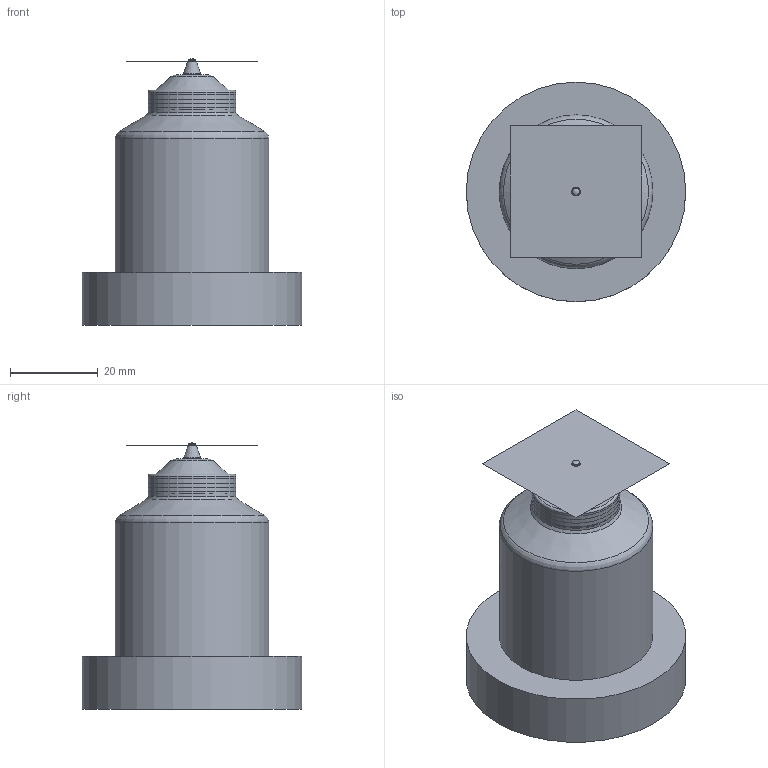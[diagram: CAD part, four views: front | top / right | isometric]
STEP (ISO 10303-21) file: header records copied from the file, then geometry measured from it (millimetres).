
FILE_DESCRIPTION (( 'STEP AP214' ), '1' );
FILE_NAME ('12E-06-060_VTW.STEP', '2020-11-17T06:46:02', ( '' ), ( '' ), 'SwSTEP 2.0', 'SolidWorks 2018', '' );
FILE_SCHEMA (( 'AUTOMOTIVE_DESIGN' ));
Length unit declared in the file: millimetre
Products named in the file (3): cutout_12E-06-060-VTW; nozzle_12E-06-060-VTW; 12E-06-060_VTW
Assembly tree (2 placements, depth 2):
  12E-06-060_VTW
    nozzle_12E-06-060-VTW
    cutout_12E-06-060-VTW
Bounding box: 50 x 50 x 60.64 mm (x, y, z)
Volume: 58817.5 mm3; surface area: 18829.4 mm2
Topology: 1 solids, 12 shells, 200 faces, 518 edges, 336 vertices
Faces by surface type: plane 92, cylinder 68, torus 28, cone 11, sphere 1
Full cylindrical faces by diameter (mm): 2 x2, 4 x1, 6 x2, 19.5 x1, 20 x3, 21 x1, 24 x1, 25 x1, 28 x1, 31 x1, 35 x1, 50 x1
Entity records: 6467 total; most frequent: CARTESIAN_POINT 1598, DIRECTION 1024, ORIENTED_EDGE 934, EDGE_CURVE 469, AXIS2_PLACEMENT_3D 392, VERTEX_POINT 324, EDGE_LOOP 248, VECTOR 240
